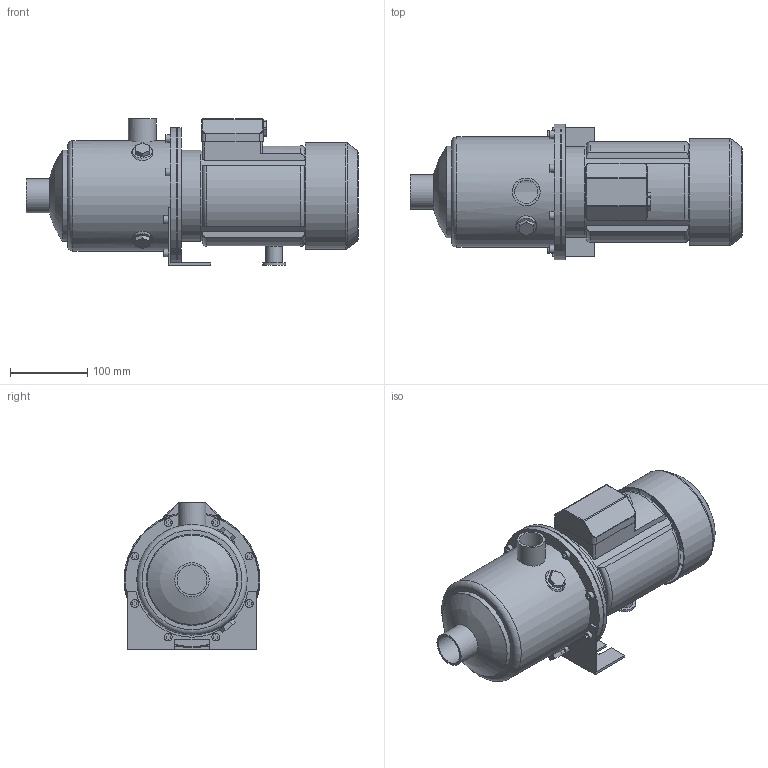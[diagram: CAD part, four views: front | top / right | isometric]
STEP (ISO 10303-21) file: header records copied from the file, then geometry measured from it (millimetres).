
FILE_DESCRIPTION(/* description */ ('Unknown'),/* implementation_level */ '2;1');
FILE_NAME(/* name */ 'MH 3 [5] T',/* time_stamp */ '2026-07-10T14:43:51+02:00',/* author */ ('Unknown'),/* organization */ ('Unknown'),/* preprocessor_version */ 'ST-DEVELOPER v20',/* originating_system */ 'Solid Edge',/* authorisation */ 'Unknown');
FILE_SCHEMA (('AUTOMOTIVE_DESIGN {1 0 10303 214 3 1 1}'));
Length unit declared in the file: millimetre
Products named in the file (10): MH 3 [5] T; Flangia motore Tonda M71; Corpo MH 3-5 [5]; Mot_Wendy_MEC71_075_T; carcassa MEC 71-T_Wendy; Copriventola MEC 71-Wendy; Basetta MEC 71 T-Wendy_new; Piedino MEC 71 int.90; Staffa 3-5-9 int.90
Assembly tree (8 placements, depth 3):
  MH 3 [5] T
    Flangia motore Tonda M71
    Corpo MH 3-5 [5]
    Mot_Wendy_MEC71_075_T
      carcassa MEC 71-T_Wendy
      Copriventola MEC 71-Wendy
      Basetta MEC 71 T-Wendy_new
    Piedino MEC 71 int.90
    Staffa 3-5-9 int.90
  (unnamed)
Bounding box: 431.1 x 176.5 x 190 mm (x, y, z)
Volume: 1455405.9 mm3; surface area: 515525.8 mm2
Topology: 8 solids, 8 shells, 276 faces, 647 edges, 429 vertices
Faces by surface type: plane 163, cylinder 74, torus 19, cone 14, bspline 4, sphere 2
Full cylindrical faces by diameter (mm): 7 x4, 10 x9, 13.5 x1, 17.5 x1, 21 x1, 30 x1, 30.291 x1, 36 x1, 38.952 x1, 44.5 x1, 110 x1, 114 x3, 116.1 x1, 118 x2, 118.5 x1, 136.5 x1, 138.5 x1, 141.1 x1, 143.5 x1, 173.5 x1, 174.1 x1, 176.5 x2
Entity records: 8860 total; most frequent: CARTESIAN_POINT 1595, DIRECTION 1262, ORIENTED_EDGE 1118, EDGE_CURVE 559, AXIS2_PLACEMENT_3D 461, VERTEX_POINT 398, EDGE_LOOP 385, FACE_BOUND 385
